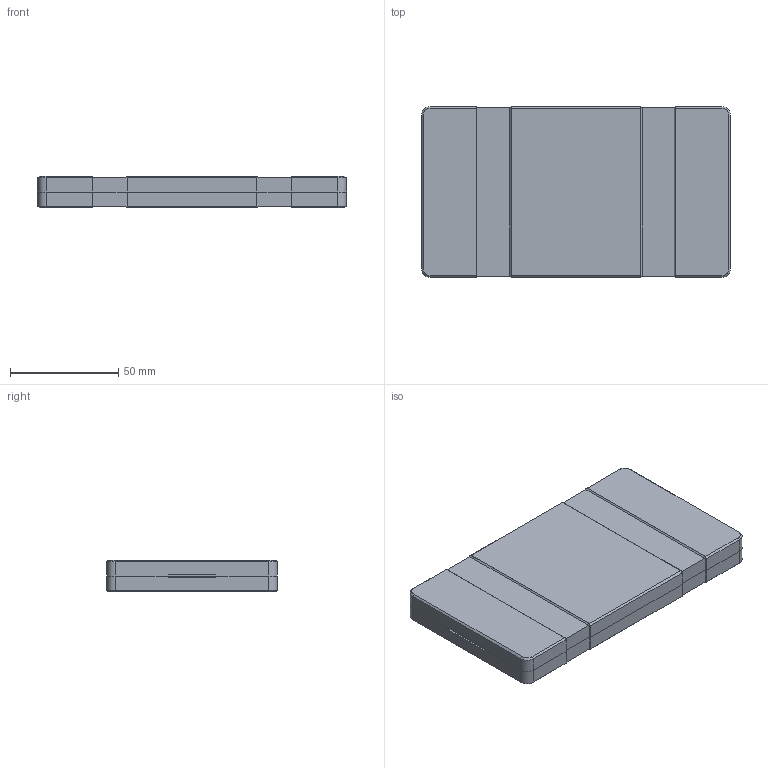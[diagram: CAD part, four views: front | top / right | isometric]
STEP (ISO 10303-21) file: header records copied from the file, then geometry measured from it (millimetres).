
FILE_DESCRIPTION(('Open CASCADE Model'),'2;1');
FILE_NAME('ddr4_shipping_case_packed_assembly','2026-11-19T07:27:34',( 'Author'),('Open CASCADE'),'Open CASCADE STEP processor 8.0', 'build123d','Unknown');
FILE_SCHEMA(('AUTOMOTIVE_DESIGN { 1 0 10303 214 1 1 1 1 }'));
Length unit declared in the file: millimetre
Products named in the file (4): ddr4_shipping_case_packed_assembly; case_base; case_lid_closed; ddr4_udimm_prototype_2
Assembly tree (4 placements, depth 2):
  ddr4_shipping_case_packed_assembly
    case_base
    case_lid_closed
    ddr4_udimm_prototype_2  x2
Bounding box: 143 x 79 x 14.8 mm (x, y, z)
Volume: 99244.6 mm3; surface area: 78497.1 mm2
Topology: 4 solids, 4 shells, 249 faces, 680 edges, 448 vertices
Faces by surface type: plane 193, cylinder 48, cone 8
Entity records: 15456 total; most frequent: CARTESIAN_POINT 3246, DIRECTION 2038, ORIENTED_EDGE 1288, PCURVE 1288, DEFINITIONAL_REPRESENTATION 1288, LINE 1268, VECTOR 1268, EDGE_CURVE 644
